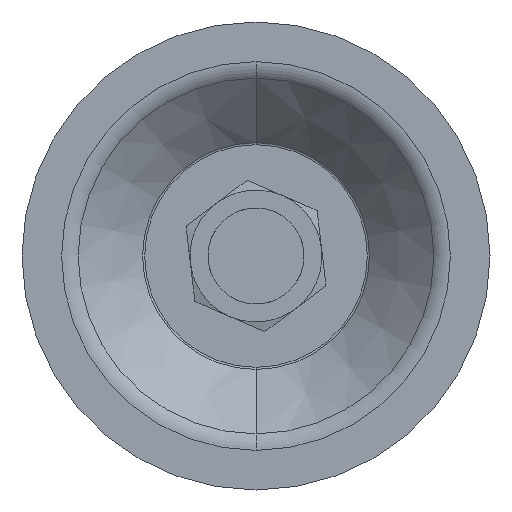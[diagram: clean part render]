
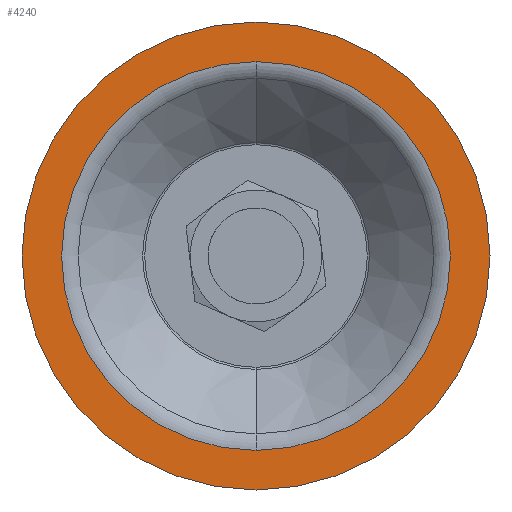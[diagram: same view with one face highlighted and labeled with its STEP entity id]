
A CAD part, front view. The second image highlights one B-rep face of the part: STEP entity #4240.
In plain terms, the highlighted planar face has unit normal (0, -1, 0).
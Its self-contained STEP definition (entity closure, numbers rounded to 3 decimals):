
#62 = CIRCLE ( 'NONE', #5832, 39. ) ;
#383 = PLANE ( 'NONE',  #7856 ) ;
#665 = AXIS2_PLACEMENT_3D ( 'NONE', #2144, #4638, #2099 ) ;
#1567 = CARTESIAN_POINT ( 'NONE',  ( 0., 0., 32.401 ) ) ;
#1594 = ORIENTED_EDGE ( 'NONE', *, *, #2827, .F. ) ;
#2099 = DIRECTION ( 'NONE',  ( 0., 0., 1. ) ) ;
#2144 = CARTESIAN_POINT ( 'NONE',  ( 0., 0., 0. ) ) ;
#2148 = EDGE_CURVE ( 'NONE', #4917, #7288, #7570, .T. ) ;
#2389 = EDGE_CURVE ( 'NONE', #7288, #4917, #7675, .T. ) ;
#2598 = ORIENTED_EDGE ( 'NONE', *, *, #5369, .F. ) ;
#2619 = CARTESIAN_POINT ( 'NONE',  ( 0., 0., 0. ) ) ;
#2770 = CIRCLE ( 'NONE', #665, 39. ) ;
#2827 = EDGE_CURVE ( 'NONE', #4523, #3363, #62, .T. ) ;
#2923 = CARTESIAN_POINT ( 'NONE',  ( 0., 0., 0. ) ) ;
#3108 = CARTESIAN_POINT ( 'NONE',  ( 0., 0., 39. ) ) ;
#3243 = DIRECTION ( 'NONE',  ( 0., 1., 0. ) ) ;
#3363 = VERTEX_POINT ( 'NONE', #3108 ) ;
#3495 = DIRECTION ( 'NONE',  ( 0., 1., 0. ) ) ;
#3712 = DIRECTION ( 'NONE',  ( 0., 0., 1. ) ) ;
#3820 = ORIENTED_EDGE ( 'NONE', *, *, #2148, .T. ) ;
#4114 = ORIENTED_EDGE ( 'NONE', *, *, #2389, .T. ) ;
#4240 = ADVANCED_FACE ( 'NONE', ( #6467, #6162 ), #383, .F. ) ;
#4307 = CARTESIAN_POINT ( 'NONE',  ( 0., 0., 0. ) ) ;
#4523 = VERTEX_POINT ( 'NONE', #5899 ) ;
#4587 = DIRECTION ( 'NONE',  ( 0., 1., 0. ) ) ;
#4638 = DIRECTION ( 'NONE',  ( 0., 1., 0. ) ) ;
#4890 = DIRECTION ( 'NONE',  ( 0., 1., 0. ) ) ;
#4896 = EDGE_LOOP ( 'NONE', ( #3820, #4114 ) ) ;
#4913 = EDGE_LOOP ( 'NONE', ( #2598, #1594 ) ) ;
#4917 = VERTEX_POINT ( 'NONE', #1567 ) ;
#5138 = CARTESIAN_POINT ( 'NONE',  ( 39., 0., 0. ) ) ;
#5150 = CARTESIAN_POINT ( 'NONE',  ( 0., 0., -32.401 ) ) ;
#5369 = EDGE_CURVE ( 'NONE', #3363, #4523, #2770, .T. ) ;
#5383 = DIRECTION ( 'NONE',  ( 0., 0., 1. ) ) ;
#5832 = AXIS2_PLACEMENT_3D ( 'NONE', #2923, #3495, #5383 ) ;
#5899 = CARTESIAN_POINT ( 'NONE',  ( 0., 0., -39. ) ) ;
#6057 = AXIS2_PLACEMENT_3D ( 'NONE', #2619, #3243, #6895 ) ;
#6162 = FACE_BOUND ( 'NONE', #4896, .T. ) ;
#6467 = FACE_OUTER_BOUND ( 'NONE', #4913, .T. ) ;
#6473 = DIRECTION ( 'NONE',  ( 0., 0., 1. ) ) ;
#6895 = DIRECTION ( 'NONE',  ( 0., 0., 1. ) ) ;
#7288 = VERTEX_POINT ( 'NONE', #5150 ) ;
#7570 = CIRCLE ( 'NONE', #7863, 32.401 ) ;
#7675 = CIRCLE ( 'NONE', #6057, 32.401 ) ;
#7856 = AXIS2_PLACEMENT_3D ( 'NONE', #5138, #4587, #6473 ) ;
#7863 = AXIS2_PLACEMENT_3D ( 'NONE', #4307, #4890, #3712 ) ;
